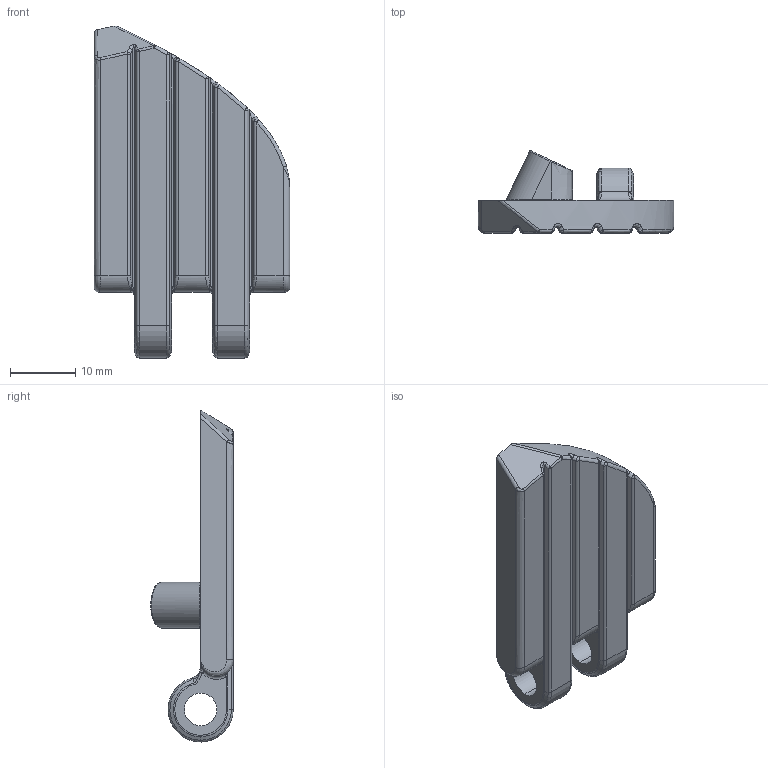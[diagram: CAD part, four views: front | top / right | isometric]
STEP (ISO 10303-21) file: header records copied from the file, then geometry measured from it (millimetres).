
FILE_DESCRIPTION (( 'STEP AP214' ), '1' );
FILE_NAME ('IDD-008-1.1.0-002_Kette_Endstück_1.STEP', '2021-08-18T14:48:04', ( '' ), ( '' ), 'SwSTEP 2.0', 'SolidWorks 2018', '' );
FILE_SCHEMA (( 'AUTOMOTIVE_DESIGN' ));
Length unit declared in the file: millimetre
Products named in the file (1): IDD-008-1.1.0-002_Kette_Endstück_1
Bounding box: 30 x 12.65 x 50.96 mm (x, y, z)
Volume: 5750.3 mm3; surface area: 3642.7 mm2
Topology: 1 solids, 1 shells, 221 faces, 537 edges, 298 vertices
Faces by surface type: bspline 87, cylinder 71, plane 26, torus 17, sphere 14, cone 6
Entity records: 10249 total; most frequent: CARTESIAN_POINT 5968, ORIENTED_EDGE 1030, DIRECTION 728, EDGE_CURVE 515, AXIS2_PLACEMENT_3D 305, VERTEX_POINT 298, EDGE_LOOP 227, FACE_OUTER_BOUND 221
